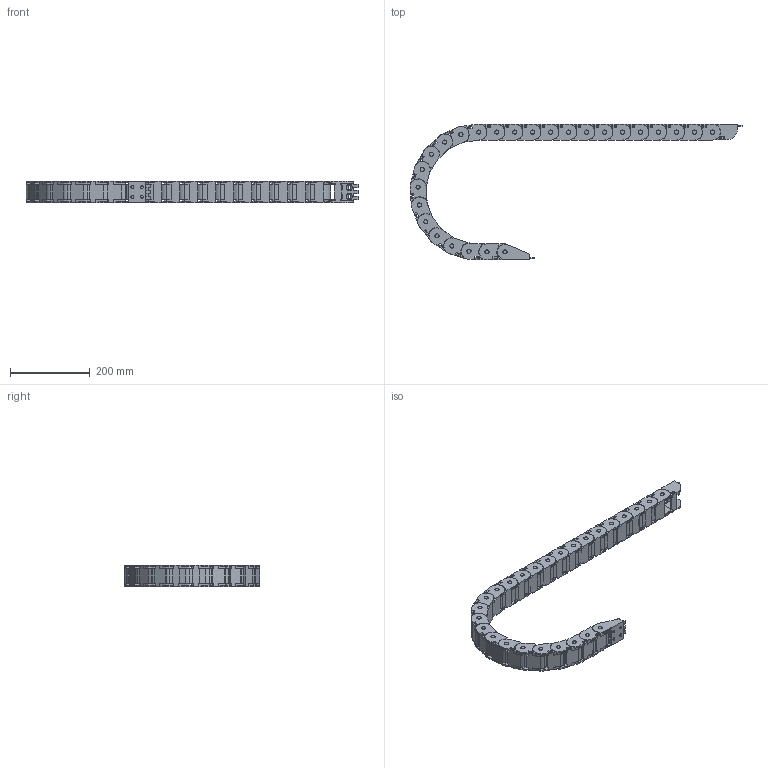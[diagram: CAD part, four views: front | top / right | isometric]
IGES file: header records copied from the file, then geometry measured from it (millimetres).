
Global section: file name: No Iges File Name specified; native system: Autodesk Inventor 2012; preprocessor: AutoDesk Inventor Iges Exporter R2012; author: cho; date: 20151023.003029; units: millimetre
Bounding box: 831.21 x 340.02 x 54.8 mm (x, y, z)
Volume: 930077.2 mm3; surface area: 592719.8 mm2
Topology: 52 solids, 52 shells, 2503 faces, 6979 edges, 4630 vertices
Faces by surface type: plane 1734, cylinder 491, revolution 278
Full cylindrical faces by diameter (mm): 10 x50, 10.5 x2
